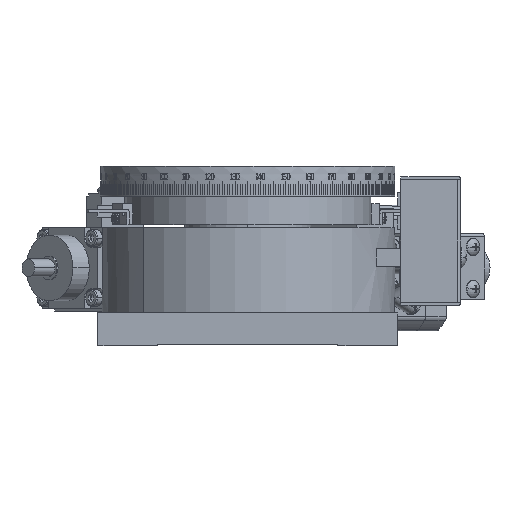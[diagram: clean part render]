
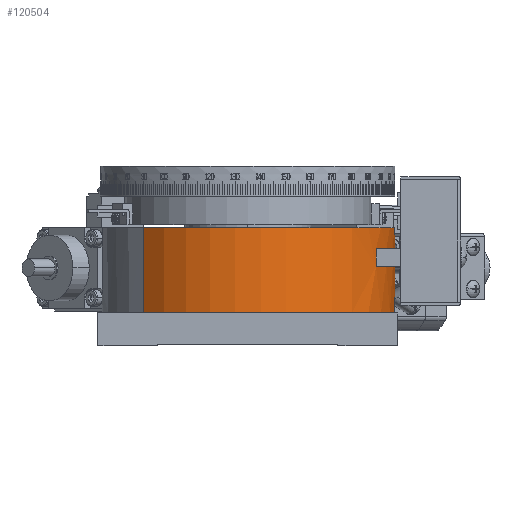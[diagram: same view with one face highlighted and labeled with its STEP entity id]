
A CAD part, left-side view. The second image highlights one B-rep face of the part: STEP entity #120504.
In plain terms, the highlighted cylindrical face has radius 49 mm (diameter 98 mm), a partial arc.
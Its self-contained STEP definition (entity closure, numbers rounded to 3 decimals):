
#1115 = CARTESIAN_POINT ( 'NONE',  ( 74.405, 262.534, 216.184 ) ) ;
#2043 = AXIS2_PLACEMENT_3D ( 'NONE', #7266, #5780, #41143 ) ;
#5780 = DIRECTION ( 'NONE',  ( 0., 0., -1. ) ) ;
#5917 = CIRCLE ( 'NONE', #2043, 49. ) ;
#7266 = CARTESIAN_POINT ( 'NONE',  ( 39.757, 297.182, 203.184 ) ) ;
#8311 = CARTESIAN_POINT ( 'NONE',  ( 5.109, 331.831, 188.184 ) ) ;
#8819 = CIRCLE ( 'NONE', #127519, 49. ) ;
#10550 = VERTEX_POINT ( 'NONE', #74369 ) ;
#12101 = ORIENTED_EDGE ( 'NONE', *, *, #19970, .F. ) ;
#12282 = VECTOR ( 'NONE', #69706, 1000. ) ;
#16875 = DIRECTION ( 'NONE',  ( 0., 0., 1. ) ) ;
#19970 = EDGE_CURVE ( 'NONE', #147119, #133484, #124252, .T. ) ;
#20778 = VERTEX_POINT ( 'NONE', #99166 ) ;
#21551 = ORIENTED_EDGE ( 'NONE', *, *, #144360, .T. ) ;
#34490 = CARTESIAN_POINT ( 'NONE',  ( 39.757, 297.182, 209.184 ) ) ;
#36277 = EDGE_CURVE ( 'NONE', #57371, #133484, #69296, .T. ) ;
#39591 = ORIENTED_EDGE ( 'NONE', *, *, #36277, .T. ) ;
#41143 = DIRECTION ( 'NONE',  ( -1., 0., 0. ) ) ;
#43097 = FACE_BOUND ( 'NONE', #104077, .T. ) ;
#44551 = CARTESIAN_POINT ( 'NONE',  ( 5.109, 331.831, 187.684 ) ) ;
#45641 = DIRECTION ( 'NONE',  ( 0., 0., 1. ) ) ;
#45648 = EDGE_CURVE ( 'NONE', #129373, #20778, #112422, .T. ) ;
#46544 = CARTESIAN_POINT ( 'NONE',  ( 15.757, 254.462, 203.184 ) ) ;
#51628 = VERTEX_POINT ( 'NONE', #73712 ) ;
#56497 = EDGE_CURVE ( 'NONE', #129373, #51628, #147150, .T. ) ;
#57371 = VERTEX_POINT ( 'NONE', #66937 ) ;
#63337 = LINE ( 'NONE', #73994, #133198 ) ;
#64150 = VECTOR ( 'NONE', #45641, 1000. ) ;
#64898 = AXIS2_PLACEMENT_3D ( 'NONE', #86240, #16875, #145322 ) ;
#66937 = CARTESIAN_POINT ( 'NONE',  ( 15.757, 254.462, 203.184 ) ) ;
#69296 = LINE ( 'NONE', #46544, #12282 ) ;
#69706 = DIRECTION ( 'NONE',  ( 0., 0., 1. ) ) ;
#72497 = DIRECTION ( 'NONE',  ( 0., 0., 1. ) ) ;
#73712 = CARTESIAN_POINT ( 'NONE',  ( 74.405, 262.534, 187.684 ) ) ;
#73994 = CARTESIAN_POINT ( 'NONE',  ( 74.405, 262.534, 188.184 ) ) ;
#74369 = CARTESIAN_POINT ( 'NONE',  ( 63.757, 254.462, 203.184 ) ) ;
#75904 = DIRECTION ( 'NONE',  ( 0.707, -0.707, 0. ) ) ;
#82753 = ORIENTED_EDGE ( 'NONE', *, *, #110448, .F. ) ;
#83203 = ORIENTED_EDGE ( 'NONE', *, *, #56497, .T. ) ;
#86240 = CARTESIAN_POINT ( 'NONE',  ( 39.757, 297.182, 187.684 ) ) ;
#88030 = LINE ( 'NONE', #103737, #64150 ) ;
#88318 = ORIENTED_EDGE ( 'NONE', *, *, #45648, .F. ) ;
#93047 = DIRECTION ( 'NONE',  ( -1., 0., 0. ) ) ;
#96289 = CYLINDRICAL_SURFACE ( 'NONE', #140494, 49. ) ;
#99166 = CARTESIAN_POINT ( 'NONE',  ( 5.109, 331.831, 216.184 ) ) ;
#101635 = EDGE_CURVE ( 'NONE', #51628, #119187, #63337, .T. ) ;
#103737 = CARTESIAN_POINT ( 'NONE',  ( 63.757, 254.462, 203.184 ) ) ;
#104077 = EDGE_LOOP ( 'NONE', ( #21551, #39591, #12101, #82753 ) ) ;
#105653 = DIRECTION ( 'NONE',  ( 0.707, -0.707, 0. ) ) ;
#110448 = EDGE_CURVE ( 'NONE', #10550, #147119, #88030, .T. ) ;
#112422 = LINE ( 'NONE', #8311, #151120 ) ;
#112880 = CARTESIAN_POINT ( 'NONE',  ( 39.757, 297.182, 188.184 ) ) ;
#115034 = AXIS2_PLACEMENT_3D ( 'NONE', #34490, #139319, #93047 ) ;
#117958 = CARTESIAN_POINT ( 'NONE',  ( 39.757, 297.182, 216.184 ) ) ;
#119187 = VERTEX_POINT ( 'NONE', #1115 ) ;
#120504 = ADVANCED_FACE ( 'NONE', ( #146124, #43097 ), #96289, .T. ) ;
#122357 = EDGE_LOOP ( 'NONE', ( #88318, #83203, #123071, #132007 ) ) ;
#123071 = ORIENTED_EDGE ( 'NONE', *, *, #101635, .T. ) ;
#124252 = CIRCLE ( 'NONE', #115034, 49. ) ;
#124363 = DIRECTION ( 'NONE',  ( 0., 0., 1. ) ) ;
#124708 = DIRECTION ( 'NONE',  ( 0., 0., 1. ) ) ;
#127519 = AXIS2_PLACEMENT_3D ( 'NONE', #117958, #141643, #105653 ) ;
#128469 = CARTESIAN_POINT ( 'NONE',  ( 63.757, 254.462, 209.184 ) ) ;
#129373 = VERTEX_POINT ( 'NONE', #44551 ) ;
#132007 = ORIENTED_EDGE ( 'NONE', *, *, #134337, .F. ) ;
#133198 = VECTOR ( 'NONE', #72497, 1000. ) ;
#133484 = VERTEX_POINT ( 'NONE', #138651 ) ;
#134337 = EDGE_CURVE ( 'NONE', #20778, #119187, #8819, .T. ) ;
#138651 = CARTESIAN_POINT ( 'NONE',  ( 15.757, 254.462, 209.184 ) ) ;
#139319 = DIRECTION ( 'NONE',  ( 0., 0., -1. ) ) ;
#140494 = AXIS2_PLACEMENT_3D ( 'NONE', #112880, #124708, #75904 ) ;
#141643 = DIRECTION ( 'NONE',  ( 0., 0., 1. ) ) ;
#144360 = EDGE_CURVE ( 'NONE', #10550, #57371, #5917, .T. ) ;
#145322 = DIRECTION ( 'NONE',  ( -1., 0., 0. ) ) ;
#146124 = FACE_OUTER_BOUND ( 'NONE', #122357, .T. ) ;
#147119 = VERTEX_POINT ( 'NONE', #128469 ) ;
#147150 = CIRCLE ( 'NONE', #64898, 49. ) ;
#151120 = VECTOR ( 'NONE', #124363, 1000. ) ;
